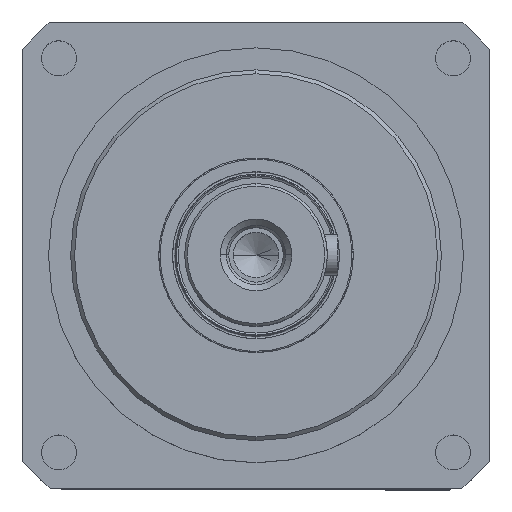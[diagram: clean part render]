
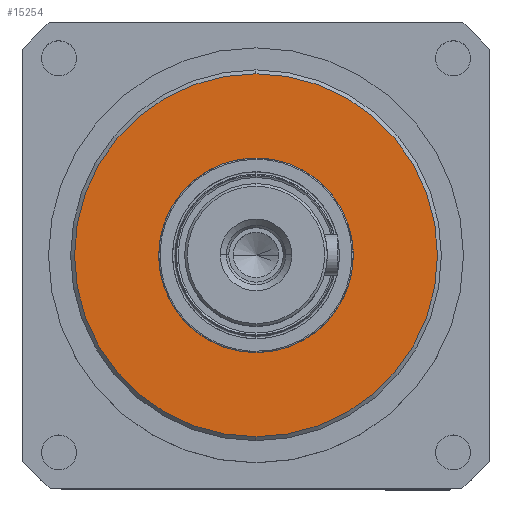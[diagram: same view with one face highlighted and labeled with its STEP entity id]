
A CAD part, top view. The second image highlights one B-rep face of the part: STEP entity #15254.
In plain terms, the highlighted planar face has unit normal (0, 0, 1).
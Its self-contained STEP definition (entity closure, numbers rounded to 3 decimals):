
#2494 = ORIENTED_EDGE ( 'NONE', *, *, #15648, .F. ) ;
#3102 = CARTESIAN_POINT ( 'NONE',  ( 0., -70., 0. ) ) ;
#4020 = DIRECTION ( 'NONE',  ( 0., 1., 0. ) ) ;
#4040 = FACE_BOUND ( 'NONE', #15580, .T. ) ;
#4665 = CARTESIAN_POINT ( 'NONE',  ( 0., 0., 0. ) ) ;
#4878 = CARTESIAN_POINT ( 'NONE',  ( -37.5, 0., 0. ) ) ;
#5699 = VERTEX_POINT ( 'NONE', #3102 ) ;
#6439 = VERTEX_POINT ( 'NONE', #4878 ) ;
#6506 = CARTESIAN_POINT ( 'NONE',  ( 37.5, 0., 0. ) ) ;
#7294 = DIRECTION ( 'NONE',  ( 0., 0., -1. ) ) ;
#7408 = CIRCLE ( 'NONE', #11963, 37.5 ) ;
#7968 = CARTESIAN_POINT ( 'NONE',  ( 0., 70., 0. ) ) ;
#9131 = CARTESIAN_POINT ( 'NONE',  ( 0., 0., 0. ) ) ;
#9326 = AXIS2_PLACEMENT_3D ( 'NONE', #19295, #7294, #15756 ) ;
#10452 = CIRCLE ( 'NONE', #18682, 70. ) ;
#10634 = ORIENTED_EDGE ( 'NONE', *, *, #15629, .F. ) ;
#10856 = DIRECTION ( 'NONE',  ( 1., 0., 0. ) ) ;
#10945 = CARTESIAN_POINT ( 'NONE',  ( 0., 0., 0. ) ) ;
#11678 = CIRCLE ( 'NONE', #16632, 70. ) ;
#11963 = AXIS2_PLACEMENT_3D ( 'NONE', #4665, #13240, #16660 ) ;
#12260 = EDGE_LOOP ( 'NONE', ( #19725, #10634 ) ) ;
#12704 = CARTESIAN_POINT ( 'NONE',  ( 0., 0., 0. ) ) ;
#13240 = DIRECTION ( 'NONE',  ( 0., 0., 1. ) ) ;
#14282 = DIRECTION ( 'NONE',  ( 0., 0., -1. ) ) ;
#14480 = DIRECTION ( 'NONE',  ( 0., 1., 0. ) ) ;
#15254 = ADVANCED_FACE ( 'b?', ( #19581, #4040 ), #15901, .F. ) ;
#15542 = VERTEX_POINT ( 'NONE', #6506 ) ;
#15580 = EDGE_LOOP ( 'NONE', ( #21380, #2494 ) ) ;
#15629 = EDGE_CURVE ( 'NONE', #5699, #21698, #10452, .T. ) ;
#15648 = EDGE_CURVE ( 'NONE', #6439, #15542, #22198, .T. ) ;
#15756 = DIRECTION ( 'NONE',  ( -1., 0., 0. ) ) ;
#15901 = PLANE ( 'NONE',  #9326 ) ;
#16260 = EDGE_CURVE ( 'NONE', #15542, #6439, #7408, .T. ) ;
#16632 = AXIS2_PLACEMENT_3D ( 'NONE', #12704, #17840, #14480 ) ;
#16660 = DIRECTION ( 'NONE',  ( 1., 0., 0. ) ) ;
#17720 = DIRECTION ( 'NONE',  ( 0., 0., 1. ) ) ;
#17840 = DIRECTION ( 'NONE',  ( 0., 0., -1. ) ) ;
#18682 = AXIS2_PLACEMENT_3D ( 'NONE', #10945, #14282, #4020 ) ;
#19295 = CARTESIAN_POINT ( 'NONE',  ( 0., 70., 0. ) ) ;
#19581 = FACE_OUTER_BOUND ( 'NONE', #12260, .T. ) ;
#19725 = ORIENTED_EDGE ( 'NONE', *, *, #21558, .F. ) ;
#21380 = ORIENTED_EDGE ( 'NONE', *, *, #16260, .F. ) ;
#21558 = EDGE_CURVE ( 'NONE', #21698, #5699, #11678, .T. ) ;
#21698 = VERTEX_POINT ( 'NONE', #7968 ) ;
#22095 = AXIS2_PLACEMENT_3D ( 'NONE', #9131, #17720, #10856 ) ;
#22198 = CIRCLE ( 'NONE', #22095, 37.5 ) ;
